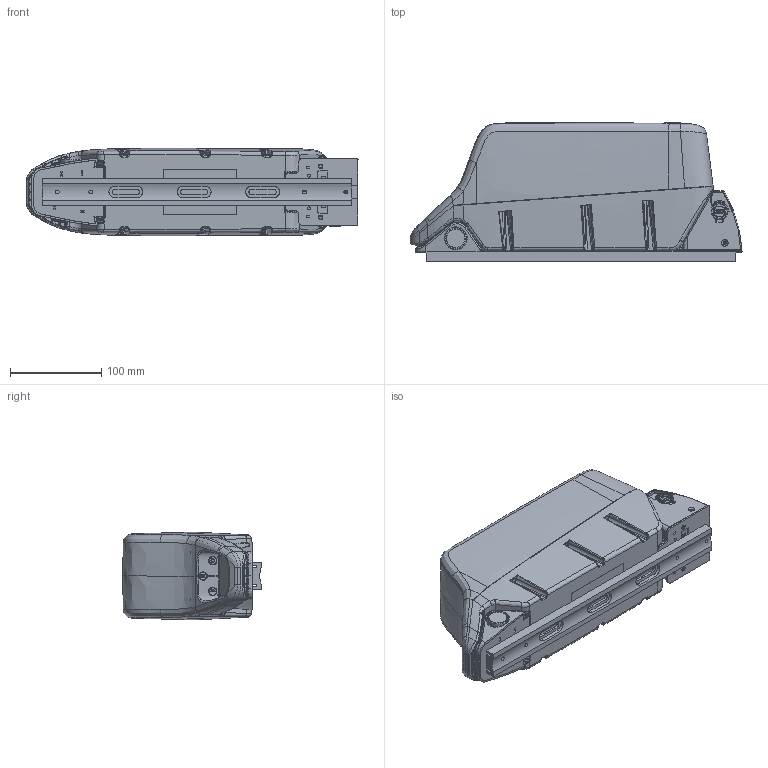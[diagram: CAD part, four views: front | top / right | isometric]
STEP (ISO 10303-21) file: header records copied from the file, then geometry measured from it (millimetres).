
FILE_DESCRIPTION(/* description */ (''),/* implementation_level */ '2;1');
FILE_NAME(/* name */ 'INFINITE_CARGO.step',/* time_stamp */ '2026-07-27T10:54:57+02:00',/* author */ (''),/* organization */ (''),/* preprocessor_version */ 'ST-DEVELOPER v20.1',/* originating_system */ 'Autodesk Translation Framework v15.8.0.0',/* authorisation */ '');
FILE_SCHEMA (('AUTOMOTIVE_DESIGN { 1 0 10303 214 3 1 1 }'));
Products named in the file (6): CARGO_ASM_ASM; CARGO_CASING; CARGO_SUPPORT; PRT0001; PRT0002; PRT0003
Assembly tree (5 placements, depth 2):
  CARGO_ASM_ASM
    CARGO_CASING
    CARGO_SUPPORT
    PRT0001
    PRT0002
    PRT0003
Bounding box: 364.08 x 152.03 x 95.86 mm (x, y, z)
Volume: 3506067.4 mm3; surface area: 378256.9 mm2
Topology: 8 solids, 14 shells, 4592 faces, 12235 edges, 7667 vertices
Faces by surface type: plane 1532, bspline 1520, cylinder 1178, cone 172, torus 143, sphere 47
Full cylindrical faces by diameter (mm): 1.2 x1, 1.392 x1, 1.7 x2, 2.1 x1, 2.178 x1, 2.5 x2, 3.2 x12, 3.3 x4, 3.5 x2, 4 x2, 4.2 x12, 4.598 x2, 6.9 x1, 7 x6, 8 x4, 8.2 x2, 9 x1, 12 x1, 13.5 x1, 20 x1, 21 x1
Entity records: 309574 total; most frequent: CARTESIAN_POINT 206135, ORIENTED_EDGE 24378, DIRECTION 17757, EDGE_CURVE 12189, VERTEX_POINT 7667, AXIS2_PLACEMENT_3D 6400, LINE 4957, VECTOR 4957
